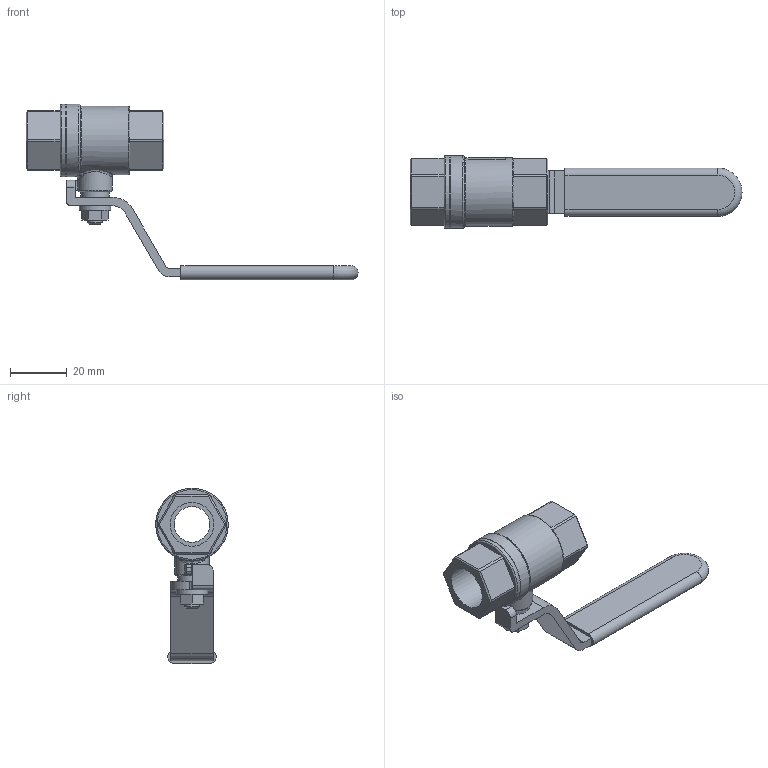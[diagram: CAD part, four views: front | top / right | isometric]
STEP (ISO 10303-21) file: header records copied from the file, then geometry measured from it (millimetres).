
FILE_DESCRIPTION( ( 'Unknown' ), '1' );
FILE_NAME( 'C:/Documents and Settings/Klaus/My Documents/Rootsi BPS 3D, Klaus/BPS 2410 ball valve, 2-pcs/STEP/BPS2410010 ball valve DN10.stp', 'Unknown', ( 'Unknown' ), ( 'Unknown' ), 'PSStep 10.1', 'Unknown', ' ' );
FILE_SCHEMA( ( 'AUTOMOTIVE_DESIGN { 1 0 10303 214 1 1 1 1 }' ) );
Length unit declared in the file: millimetre
Products named in the file (2): 1; 2
Bounding box: 116.75 x 25.5 x 61.75 mm (x, y, z)
Volume: 21612.9 mm3; surface area: 12002.2 mm2
Topology: 2 solids, 2 shells, 297 faces, 713 edges, 457 vertices
Faces by surface type: plane 214, extrusion 44, cylinder 24, bspline 8, torus 6, cone 1
Full cylindrical faces by diameter (mm): 5 x1, 10 x1, 11 x1, 12 x1, 12.5 x2, 15.376 x2, 24 x1, 25.5 x2
Entity records: 14074 total; most frequent: CARTESIAN_POINT 5456, ORIENTED_EDGE 1364, DIRECTION 995, EDGE_CURVE 682, VERTEX_POINT 451, EDGE_LOOP 363, VECTOR 359, B_SPLINE_CURVE_WITH_KNOTS 340
